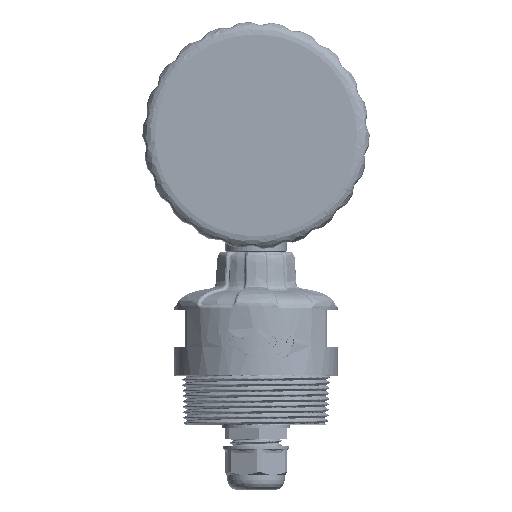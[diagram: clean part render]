
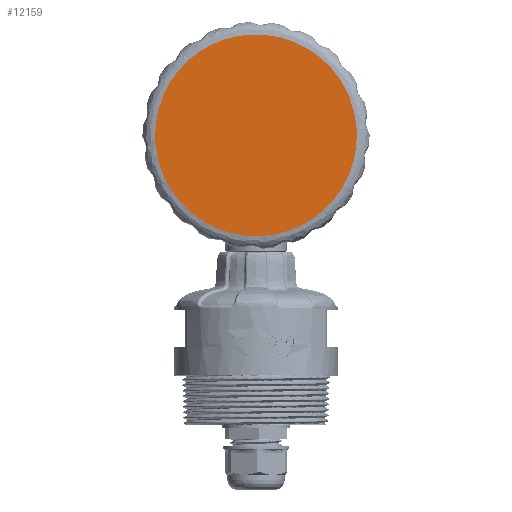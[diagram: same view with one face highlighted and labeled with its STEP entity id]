
A CAD part, top view. The second image highlights one B-rep face of the part: STEP entity #12159.
In plain terms, the highlighted free-form (B-spline) face has degree [1, 1] with [2, 2] control points.
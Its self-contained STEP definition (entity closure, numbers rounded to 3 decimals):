
#1050 =( BOUNDED_CURVE ( )  B_SPLINE_CURVE ( 2, ( #73144, #95896, #90667, #177832, #152501 ),
 .UNSPECIFIED., .F., .T. ) 
 B_SPLINE_CURVE_WITH_KNOTS ( ( 3, 2, 3 ),
 ( -3.142, -1.571, 0. ),
 .UNSPECIFIED. ) 
 CURVE ( )  GEOMETRIC_REPRESENTATION_ITEM ( )  RATIONAL_B_SPLINE_CURVE ( ( 1., 0.707, 1., 0.707, 1. ) ) 
 REPRESENTATION_ITEM ( '' )  );
#3954 = CARTESIAN_POINT ( 'NONE',  ( -41.053, 0., -44. ) ) ;
#12159 = ADVANCED_FACE ( 'NONE', ( #61400 ), #134688, .T. ) ;
#14747 = CARTESIAN_POINT ( 'NONE',  ( -41.063, -41.063, -44. ) ) ;
#24162 = CARTESIAN_POINT ( 'NONE',  ( 41.053, 41.053, -44. ) ) ;
#32041 = VERTEX_POINT ( 'NONE', #144510 ) ;
#34924 = CARTESIAN_POINT ( 'NONE',  ( 41.063, -41.063, -44. ) ) ;
#53817 = CARTESIAN_POINT ( 'NONE',  ( 41.063, 41.063, -44. ) ) ;
#59981 = EDGE_LOOP ( 'NONE', ( #112490, #102234 ) ) ;
#61400 = FACE_OUTER_BOUND ( 'NONE', #59981, .T. ) ;
#64005 = CARTESIAN_POINT ( 'NONE',  ( 41.053, 0., -44. ) ) ;
#73144 = CARTESIAN_POINT ( 'NONE',  ( -41.053, 0., -44. ) ) ;
#90667 = CARTESIAN_POINT ( 'NONE',  ( 0., -41.053, -44. ) ) ;
#95896 = CARTESIAN_POINT ( 'NONE',  ( -41.053, -41.053, -44. ) ) ;
#102234 = ORIENTED_EDGE ( 'NONE', *, *, #157934, .F. ) ;
#106187 = CARTESIAN_POINT ( 'NONE',  ( 41.053, 0., -44. ) ) ;
#112490 = ORIENTED_EDGE ( 'NONE', *, *, #257383, .F. ) ;
#116978 = CARTESIAN_POINT ( 'NONE',  ( -41.063, 41.063, -44. ) ) ;
#134688 = B_SPLINE_SURFACE_WITH_KNOTS ( 'NONE', 1, 1, ( 
 ( #34924, #53817 ),
 ( #14747, #116978 ) ),
 .UNSPECIFIED., .F., .F., .F.,
 ( 2, 2 ),
 ( 2, 2 ),
 ( -4.106, 4.106 ),
 ( -4.106, 4.106 ),
 .UNSPECIFIED. ) ;
#144510 = CARTESIAN_POINT ( 'NONE',  ( -41.053, 0., -44. ) ) ;
#149169 = CARTESIAN_POINT ( 'NONE',  ( -41.053, 41.053, -44. ) ) ;
#152501 = CARTESIAN_POINT ( 'NONE',  ( 41.053, 0., -44. ) ) ;
#157934 = EDGE_CURVE ( 'NONE', #204157, #32041, #212879, .T. ) ;
#177832 = CARTESIAN_POINT ( 'NONE',  ( 41.053, -41.053, -44. ) ) ;
#188133 = CARTESIAN_POINT ( 'NONE',  ( 0., 41.053, -44. ) ) ;
#204157 = VERTEX_POINT ( 'NONE', #64005 ) ;
#212879 =( BOUNDED_CURVE ( )  B_SPLINE_CURVE ( 2, ( #106187, #24162, #188133, #149169, #3954 ),
 .UNSPECIFIED., .F., .F. ) 
 B_SPLINE_CURVE_WITH_KNOTS ( ( 3, 2, 3 ),
 ( 0., 1.571, 3.142 ),
 .UNSPECIFIED. ) 
 CURVE ( )  GEOMETRIC_REPRESENTATION_ITEM ( )  RATIONAL_B_SPLINE_CURVE ( ( 1., 0.707, 1., 0.707, 1. ) ) 
 REPRESENTATION_ITEM ( '' )  );
#257383 = EDGE_CURVE ( 'NONE', #32041, #204157, #1050, .T. ) ;
